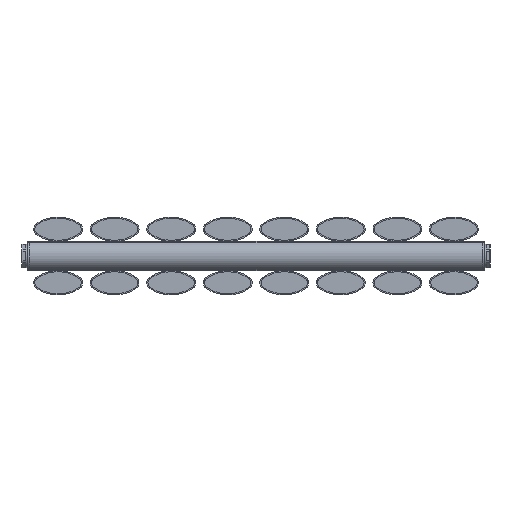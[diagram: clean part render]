
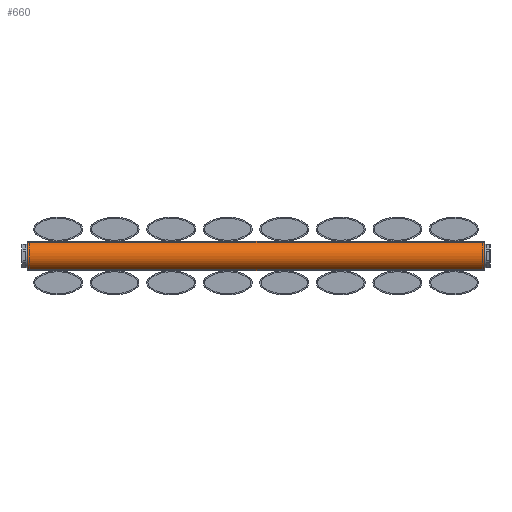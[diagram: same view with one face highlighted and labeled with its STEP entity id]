
A CAD part, left-side view. The second image highlights one B-rep face of the part: STEP entity #660.
In plain terms, the highlighted cylindrical face has radius 15 mm (diameter 30 mm), a full revolution.
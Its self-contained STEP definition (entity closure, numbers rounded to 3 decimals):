
#224=FACE_BOUND('',#278,.T.);
#239=FACE_OUTER_BOUND('',#277,.T.);
#277=EDGE_LOOP('',(#496));
#278=EDGE_LOOP('',(#497));
#329=CIRCLE('',#743,15.);
#330=CIRCLE('',#744,15.);
#366=VERTEX_POINT('',#1092);
#367=VERTEX_POINT('',#1094);
#421=EDGE_CURVE('',#366,#366,#329,.T.);
#422=EDGE_CURVE('',#367,#367,#330,.T.);
#496=ORIENTED_EDGE('',*,*,#421,.F.);
#497=ORIENTED_EDGE('',*,*,#422,.F.);
#645=CYLINDRICAL_SURFACE('',#742,15.);
#660=ADVANCED_FACE('',(#239,#224),#645,.T.);
#742=AXIS2_PLACEMENT_3D('',#1091,#852,#853);
#743=AXIS2_PLACEMENT_3D('',#1093,#854,#855);
#744=AXIS2_PLACEMENT_3D('',#1095,#856,#857);
#852=DIRECTION('center_axis',(0.,0.,1.));
#853=DIRECTION('ref_axis',(-1.,0.,0.));
#854=DIRECTION('center_axis',(0.,0.,1.));
#855=DIRECTION('ref_axis',(-1.,0.,0.));
#856=DIRECTION('center_axis',(0.,0.,-1.));
#857=DIRECTION('ref_axis',(-1.,0.,0.));
#1091=CARTESIAN_POINT('Origin',(0.,-15.,0.));
#1092=CARTESIAN_POINT('',(15.,-15.,468.));
#1093=CARTESIAN_POINT('Origin',(0.,-15.,468.));
#1094=CARTESIAN_POINT('',(15.,-15.,0.));
#1095=CARTESIAN_POINT('Origin',(0.,-15.,0.));
